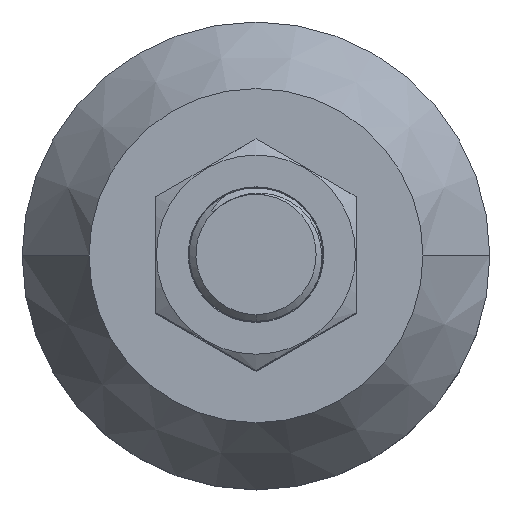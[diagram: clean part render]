
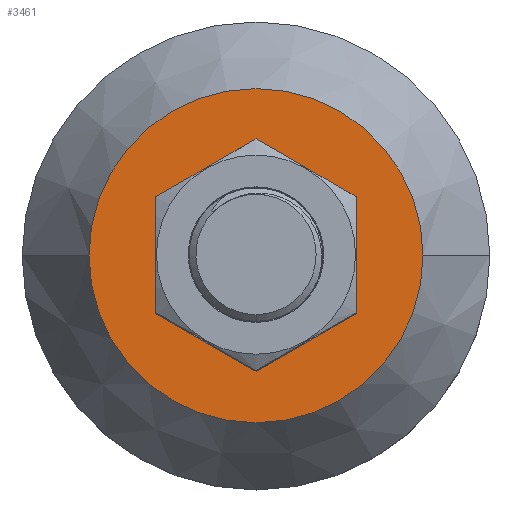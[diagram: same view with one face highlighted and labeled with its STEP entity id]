
A CAD part, top view. The second image highlights one B-rep face of the part: STEP entity #3461.
In plain terms, the highlighted planar face has unit normal (0, 0, 1).
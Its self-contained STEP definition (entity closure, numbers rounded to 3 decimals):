
#163 = DIRECTION ( 'NONE',  ( -1., 0., 0. ) ) ;
#670 = EDGE_LOOP ( 'NONE', ( #4347, #5668 ) ) ;
#1236 = CARTESIAN_POINT ( 'NONE',  ( 25., 0., 39. ) ) ;
#1237 = VERTEX_POINT ( 'NONE', #1236 ) ;
#1699 = CIRCLE ( 'NONE', #8198, 25. ) ;
#2016 = FACE_OUTER_BOUND ( 'NONE', #670, .T. ) ;
#2117 = AXIS2_PLACEMENT_3D ( 'NONE', #8332, #10342, #4214 ) ;
#2192 = CIRCLE ( 'NONE', #11103, 25. ) ;
#3053 = CARTESIAN_POINT ( 'NONE',  ( 0., 0., 39. ) ) ;
#3461 = ADVANCED_FACE ( 'NONE', ( #2016 ), #10390, .F. ) ;
#3968 = EDGE_CURVE ( 'NONE', #1237, #6108, #2192, .T. ) ;
#4083 = DIRECTION ( 'NONE',  ( -1., 0., 0. ) ) ;
#4214 = DIRECTION ( 'NONE',  ( -1., 0., 0. ) ) ;
#4347 = ORIENTED_EDGE ( 'NONE', *, *, #5673, .F. ) ;
#5668 = ORIENTED_EDGE ( 'NONE', *, *, #3968, .F. ) ;
#5673 = EDGE_CURVE ( 'NONE', #6108, #1237, #1699, .T. ) ;
#5716 = CARTESIAN_POINT ( 'NONE',  ( -25., 0., 39. ) ) ;
#6108 = VERTEX_POINT ( 'NONE', #5716 ) ;
#6401 = DIRECTION ( 'NONE',  ( 0., 0., -1. ) ) ;
#8198 = AXIS2_PLACEMENT_3D ( 'NONE', #12560, #6401, #163 ) ;
#8332 = CARTESIAN_POINT ( 'NONE',  ( 25., 0., 39. ) ) ;
#10270 = DIRECTION ( 'NONE',  ( 0., 0., -1. ) ) ;
#10342 = DIRECTION ( 'NONE',  ( 0., 0., -1. ) ) ;
#10390 = PLANE ( 'NONE',  #2117 ) ;
#11103 = AXIS2_PLACEMENT_3D ( 'NONE', #3053, #10270, #4083 ) ;
#12560 = CARTESIAN_POINT ( 'NONE',  ( 0., 0., 39. ) ) ;
